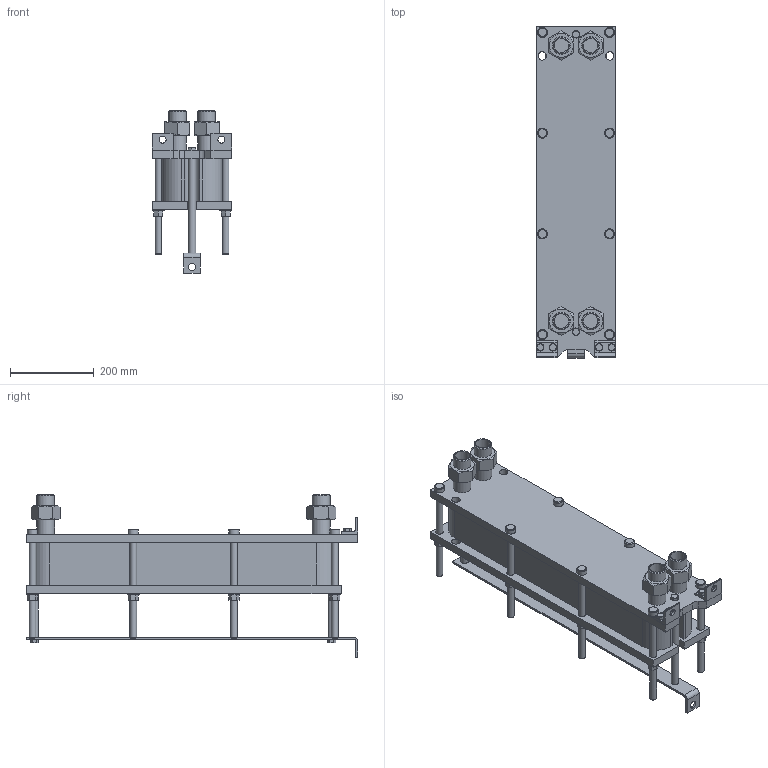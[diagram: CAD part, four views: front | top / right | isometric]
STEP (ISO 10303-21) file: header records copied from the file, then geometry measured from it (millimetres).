
FILE_DESCRIPTION(/* description */ (''),/* implementation_level */ '2;1');
FILE_NAME(/* name */ 'C:\Users\zhuro\Desktop\ENCO\TO\ЭН-008\ЭН-0,5-008-33-1.stp',/* time_stamp */ '2022-06-06T10:47:34+03:00',/* author */ ('zhuro'),/* organization */ (''),/* preprocessor_version */ 'ST-DEVELOPER v18.1',/* originating_system */ 'Autodesk Inventor 2022',/* authorisation */ '');
FILE_SCHEMA (('AUTOMOTIVE_DESIGN { 1 0 10303 214 3 1 1 }'));
Length unit declared in the file: millimetre
Products named in the file (1): ЭН-0,5-008-33-1
Bounding box: 190 x 790 x 387.4 mm (x, y, z)
Volume: 17116646.7 mm3; surface area: 1454783.2 mm2
Topology: 40 solids, 40 shells, 428 faces, 924 edges, 606 vertices
Faces by surface type: plane 273, cylinder 109, cone 40, torus 6
Full cylindrical faces by diameter (mm): 12 x6, 14 x2, 16 x20, 17 x8, 18 x19, 20 x5, 24 x8, 28 x8, 34.3 x8, 42.3 x8
Entity records: 15843 total; most frequent: CARTESIAN_POINT 5991, DIRECTION 1984, ORIENTED_EDGE 1848, EDGE_CURVE 924, AXIS2_PLACEMENT_3D 715, VERTEX_POINT 606, LINE 554, VECTOR 554
